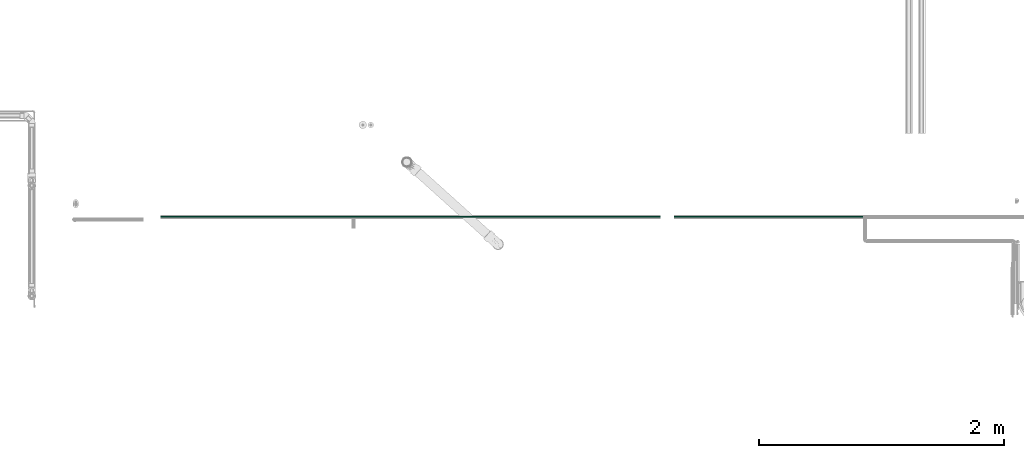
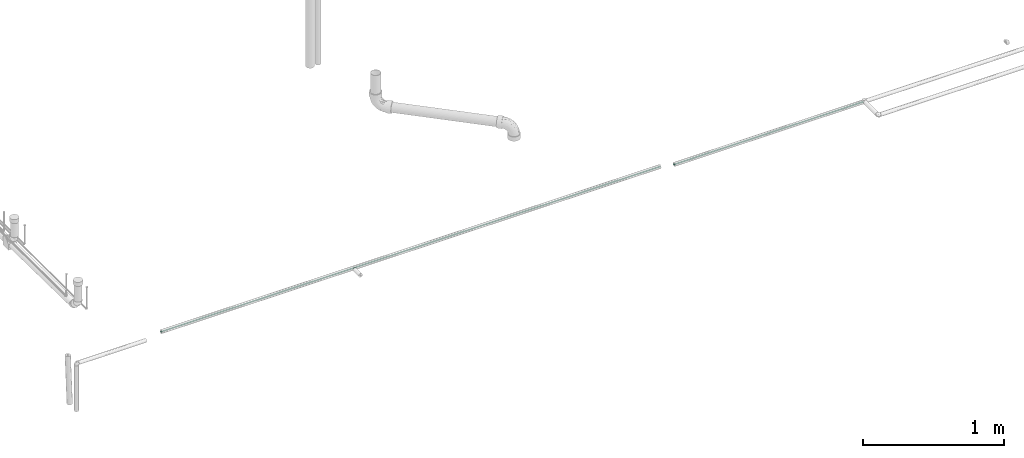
# One storey, part 28 of 108: 2 flow segments.
"""IFC2X3 building model written with IfcOpenShell, lengths in millimetres."""

from ifc_helpers import new_model, entity, si_unit, converted_unit, derived_unit, direction, frame, origin_with_axes, origin_2d_with_axis, place, context, subcontext, project, spatial, hollow_circle, extrude, source, transform, mapped, type_object, element, save


model = new_model("IFC2X3")

# Units and contexts
model_context = context("Model", 3, precision=0.01, world=frame((0.0, 4.29681676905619e-09, 0.0)), true_north=direction((4.01073788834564e-13, 1.0)))
plan_context = context("Plan", 3, precision=0.01, world=frame((0.0, 4.29681676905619e-09, 0.0)), true_north=direction((4.01073788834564e-13, 1.0)))
body_context = subcontext(model_context, "Body", "Model", "MODEL_VIEW")
ifc_project = project(units=[converted_unit("PLANEANGLEUNIT", "DEGREE", entity("IfcPositiveLengthMeasure", 0.0174532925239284), si_unit("PLANEANGLEUNIT", "RADIAN"), dimensions=[0, 0, 0, 0, 0, 0, 0]), si_unit("AREAUNIT", "SQUARE_METRE"), si_unit("LENGTHUNIT", "METRE", prefix="MILLI"), si_unit("MASSUNIT", "GRAM", prefix="KILO"), si_unit("POWERUNIT", "WATT"), si_unit("PRESSUREUNIT", "PASCAL", prefix="KILO"), si_unit("FORCEUNIT", "NEWTON", prefix="KILO"), si_unit("ELECTRICVOLTAGEUNIT", "VOLT"), si_unit("ELECTRICCURRENTUNIT", "AMPERE"), si_unit("THERMODYNAMICTEMPERATUREUNIT", "DEGREE_CELSIUS"), si_unit("TIMEUNIT", "SECOND"), si_unit("VOLUMEUNIT", "CUBIC_METRE"), derived_unit("LINEARVELOCITYUNIT", [(si_unit("LENGTHUNIT", "METRE"), 1), (si_unit("TIMEUNIT", "SECOND"), -1)]), derived_unit("VOLUMETRICFLOWRATEUNIT", [(si_unit("VOLUMEUNIT", "CUBIC_METRE"), 1), (si_unit("TIMEUNIT", "SECOND"), -1)]), derived_unit("THERMALTRANSMITTANCEUNIT", [(si_unit("POWERUNIT", "WATT"), 1), (si_unit("THERMODYNAMICTEMPERATUREUNIT", "KELVIN"), -1), (si_unit("AREAUNIT", "SQUARE_METRE"), -1)]), derived_unit("SOUNDPRESSUREUNIT", [(si_unit("PRESSUREUNIT", "PASCAL"), 1)])], contexts=[model_context, plan_context])

# Site, building, storey
site_placement = place(None, frame((0.0, -4.29681676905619e-09, 0.0), z_axis=(0.0, 0.0, 1.0), x_axis=(1.0, 0.0, 0.0)))
site = spatial("IfcSite", under=ifc_project, at=site_placement, CompositionType="ELEMENT")
building_placement = place(site_placement, frame((0.0, 4.29681676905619e-09, 0.0), z_axis=(0.0, 0.0, 1.0), x_axis=(1.0, 0.0, 0.0)))
building = spatial("IfcBuilding", under=site, at=building_placement, Name="mc-building", CompositionType="ELEMENT")
storey_placement = place(building_placement, frame((0.0, 0.0, 210200.0), z_axis=(0.0, 0.0, 1.0), x_axis=(1.0, 0.0, 0.0)))
storey = spatial("IfcBuildingStorey", under=building, at=storey_placement, Name="Nivå F - 0,7 m", CompositionType="ELEMENT", Elevation=210200.0)

# Flow segments
pipe_segment_type = type_object("IfcPipeSegmentType", Name="Kobberrør", PredefinedType="RIGIDSEGMENT")
shared_shape_1 = source(origin_with_axes(), body_context, "Body", "SweptSolid", [
    extrude(hollow_circle(Radius=6.0, WallThickness=2.0, at=origin_2d_with_axis()), frame((0.0, 0.0, 0.0), z_axis=(1.0, 0.0, 0.0), x_axis=(0.0, 1.0, 0.0)), (0.0, 0.0, 1.0), 1543.1),
])
flow_segment_1_placement = place(storey_placement, frame((337902.44674, 461303.19294, -735.809999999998), z_axis=(0.0, 0.0, 1.0), x_axis=(-1.0, 0.0, 0.0)))
element("IfcFlowSegment", 1, at=flow_segment_1_placement, inside=storey, type_object=pipe_segment_type, Name="Kobberrør", context=body_context, shape_type="MappedRepresentation", body=[
    mapped(shared_shape_1, transform((0.0, 0.0, 0.0), scale=1.0)),
])
shared_shape_2 = source(origin_with_axes(), body_context, "Body", "SweptSolid", [
    extrude(hollow_circle(Radius=6.0, WallThickness=2.0, at=origin_2d_with_axis()), frame((0.0, 0.0, 0.0), z_axis=(1.0, 0.0, 0.0), x_axis=(0.0, 1.0, 0.0)), (0.0, 0.0, 1.0), 4074.9),
])
flow_segment_2_placement = place(storey_placement, frame((336246.23933, 461303.19294, -713.310479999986), z_axis=(0.0, 0.874164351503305, 0.485630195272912), x_axis=(-1.0, 0.0, 0.0)))
element("IfcFlowSegment", 2, at=flow_segment_2_placement, inside=storey, type_object=pipe_segment_type, Name="Kobberrør", context=body_context, shape_type="MappedRepresentation", body=[
    mapped(shared_shape_2, transform((0.0, 0.0, 0.0), scale=1.0)),
])

save(model, "model.ifc")
